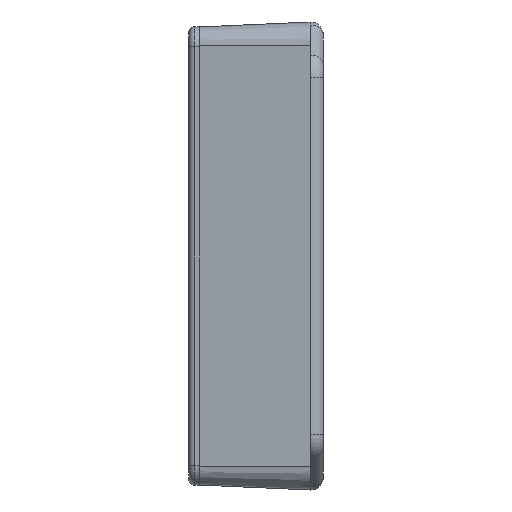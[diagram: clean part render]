
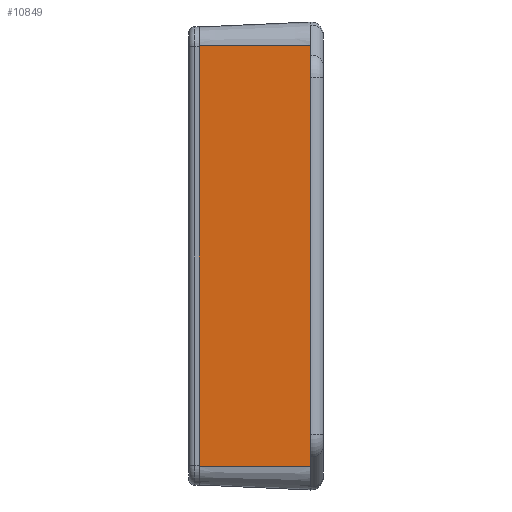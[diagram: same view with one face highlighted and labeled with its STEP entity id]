
A CAD part, left-side view. The second image highlights one B-rep face of the part: STEP entity #10849.
In plain terms, the highlighted planar face has unit normal (-0.999, 0.044, 0).
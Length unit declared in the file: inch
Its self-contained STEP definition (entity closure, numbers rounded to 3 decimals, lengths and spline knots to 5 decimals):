
#747 = VERTEX_POINT ( 'NONE', #9312 ) ;
#748 = VERTEX_POINT ( 'NONE', #9305 ) ;
#753 = VERTEX_POINT ( 'NONE', #9215 ) ;
#754 = VERTEX_POINT ( 'NONE', #9214 ) ;
#2657 = FACE_OUTER_BOUND ( 'NONE', #7899, .T. ) ;
#3167 = EDGE_CURVE ( 'NONE', #753, #754, #6271, .T. ) ;
#3171 = EDGE_CURVE ( 'NONE', #754, #747, #6280, .T. ) ;
#3180 = EDGE_CURVE ( 'NONE', #753, #748, #6279, .T. ) ;
#3181 = EDGE_CURVE ( 'NONE', #748, #747, #6296, .T. ) ;
#5068 = CARTESIAN_POINT ( 'NONE',  ( -3.1075, -1.125, 2.122 ) ) ;
#5076 = DIRECTION ( 'NONE',  ( 0.044, 0.999, 0. ) ) ;
#5090 = DIRECTION ( 'NONE',  ( 0., 0., 1. ) ) ;
#5093 = CARTESIAN_POINT ( 'NONE',  ( -3.0575, 0., 2.122 ) ) ;
#5149 = DIRECTION ( 'NONE',  ( 0., 0., 1. ) ) ;
#5151 = CARTESIAN_POINT ( 'NONE',  ( -3.0575, 0., -2.122 ) ) ;
#5153 = DIRECTION ( 'NONE',  ( 0.044, 0.999, 0. ) ) ;
#5154 = CARTESIAN_POINT ( 'NONE',  ( -3.0575, 0., -2.122 ) ) ;
#6249 = VECTOR ( 'NONE', #5076, 39.37008 ) ;
#6265 = VECTOR ( 'NONE', #5090, 39.37008 ) ;
#6271 = LINE ( 'NONE', #5068, #6265 ) ;
#6279 = LINE ( 'NONE', #5154, #6292 ) ;
#6280 = LINE ( 'NONE', #5093, #6249 ) ;
#6292 = VECTOR ( 'NONE', #5153, 39.37008 ) ;
#6296 = LINE ( 'NONE', #5151, #6297 ) ;
#6297 = VECTOR ( 'NONE', #5149, 39.37008 ) ;
#7489 = CARTESIAN_POINT ( 'NONE',  ( -3.0575, 0., -2.122 ) ) ;
#7490 = PLANE ( 'NONE',  #11291 ) ;
#7492 = DIRECTION ( 'NONE',  ( -0.999, 0.044, 0. ) ) ;
#7493 = DIRECTION ( 'NONE',  ( -0.044, -0.999, 0. ) ) ;
#7899 = EDGE_LOOP ( 'NONE', ( #10755, #10712, #10810, #10809 ) ) ;
#9214 = CARTESIAN_POINT ( 'NONE',  ( -3.1075, -1.125, 2.122 ) ) ;
#9215 = CARTESIAN_POINT ( 'NONE',  ( -3.1075, -1.125, -2.122 ) ) ;
#9305 = CARTESIAN_POINT ( 'NONE',  ( -3.0575, 0., -2.122 ) ) ;
#9312 = CARTESIAN_POINT ( 'NONE',  ( -3.0575, 0., 2.122 ) ) ;
#10712 = ORIENTED_EDGE ( 'NONE', *, *, #3180, .F. ) ;
#10755 = ORIENTED_EDGE ( 'NONE', *, *, #3181, .F. ) ;
#10809 = ORIENTED_EDGE ( 'NONE', *, *, #3171, .T. ) ;
#10810 = ORIENTED_EDGE ( 'NONE', *, *, #3167, .T. ) ;
#10849 = ADVANCED_FACE ( 'NONE', ( #2657 ), #7490, .T. ) ;
#11291 = AXIS2_PLACEMENT_3D ( 'NONE', #7489, #7492, #7493 ) ;
